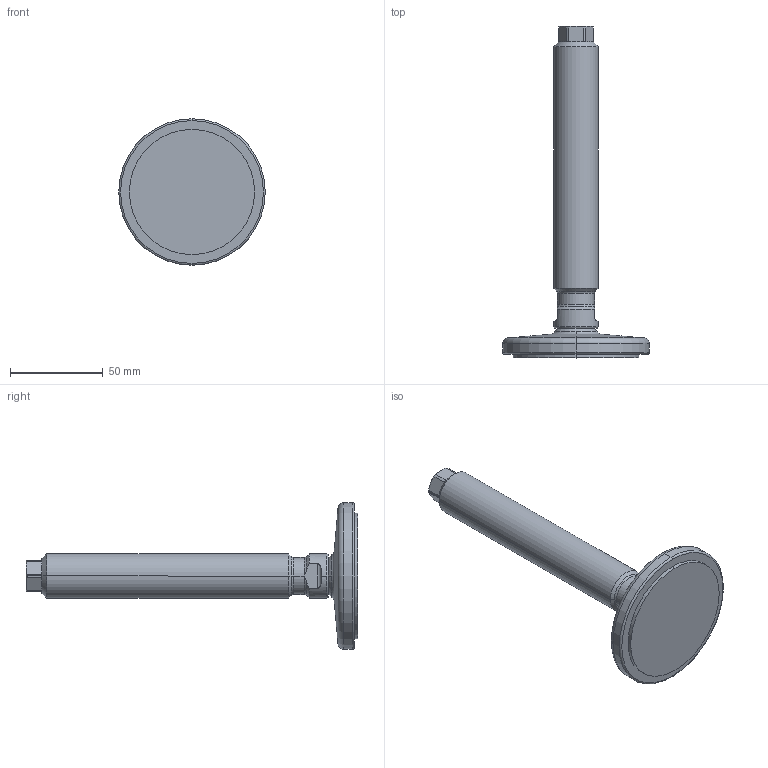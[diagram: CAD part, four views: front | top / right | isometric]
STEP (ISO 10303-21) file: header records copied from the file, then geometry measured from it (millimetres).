
FILE_DESCRIPTION (( 'STEP AP214' ), '1' );
FILE_NAME ('21-80-M24-150-D1-V.step', '2020-10-02T17:36:23', ( '' ), ( '' ), 'SwSTEP 2.0', 'SolidWorks 2019', '' );
FILE_SCHEMA (( 'AUTOMOTIVE_DESIGN' ));
Length unit declared in the file: millimetre
Products named in the file (3): 21-80-M24-150-D1-V; WB21_Fußteller 21^WB21_V_D1-080-R14-B9 (M24); WB21_Spindel_V^WB21_V_M24-150
Assembly tree (2 placements, depth 2):
  21-80-M24-150-D1-V
    WB21_Fußteller 21^WB21_V_D1-080-R14-B9 (M24)
    WB21_Spindel_V^WB21_V_M24-150
Bounding box: 79 x 178.9 x 79 mm (x, y, z)
Volume: 125261.7 mm3; surface area: 25188.2 mm2
Topology: 2 solids, 2 shells, 76 faces, 171 edges, 101 vertices
Faces by surface type: cylinder 25, plane 20, cone 17, torus 10, sphere 4
Entity records: 2399 total; most frequent: CARTESIAN_POINT 517, DIRECTION 390, ORIENTED_EDGE 342, EDGE_CURVE 171, AXIS2_PLACEMENT_3D 166, VERTEX_POINT 101, CIRCLE 85, EDGE_LOOP 78
